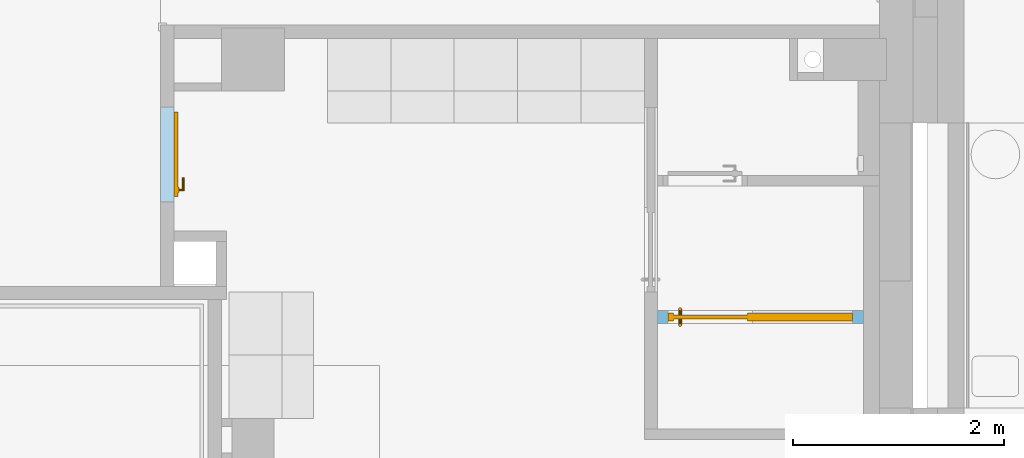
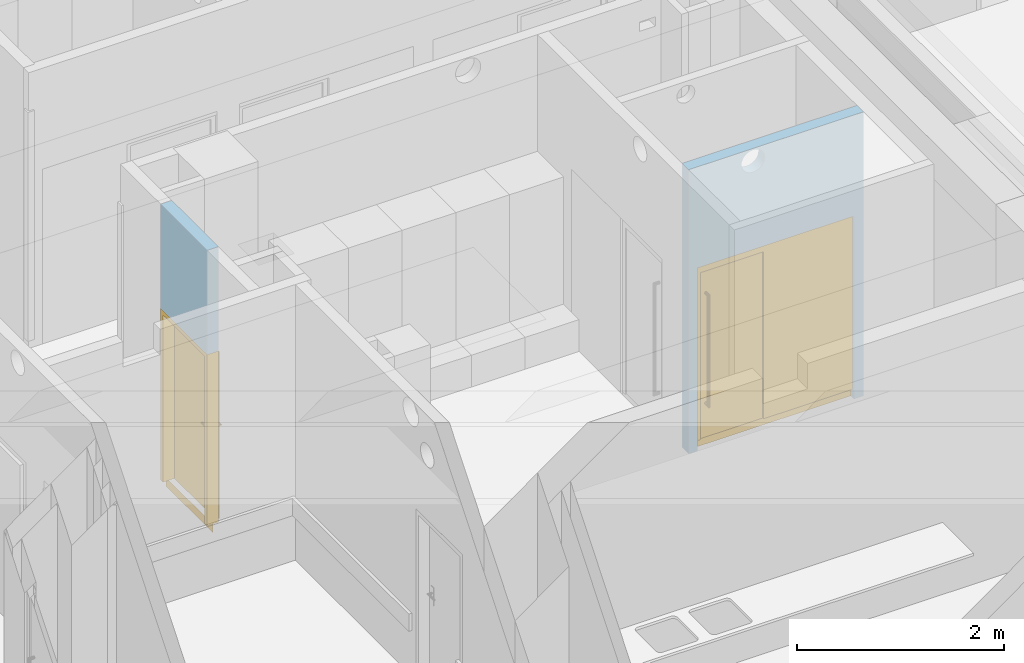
# One storey, part 100 of 140: 2 doors, 3 openings, plus 2 elements that do not belong to this part.
"""IFC4 building model written with IfcOpenShell, lengths in metres."""

from ifc_helpers import new_model, entity, si_unit, converted_unit, derived_unit, frame, frame_2d, origin, origin_with_axes, place, context, subcontext, project, spatial, polyline, rectangle, outline, extrude, closed_shell, open_shell, surface_model, source, transform, mapped, material, layer, layer_set, layer_usage, type_object, element, fill, save


model = new_model("IFC4")

# Units and contexts
model_context = context("Model", 3, precision=1e-05, world=origin())
body_context = subcontext(model_context, "Body", "Model", "MODEL_VIEW")
ifc_project = project(units=[si_unit("LENGTHUNIT", "METRE"), si_unit("AREAUNIT", "SQUARE_METRE"), si_unit("VOLUMEUNIT", "CUBIC_METRE"), si_unit("MASSUNIT", "GRAM", prefix="KILO"), converted_unit("PLANEANGLEUNIT", "DEGREE", entity("IfcPlaneAngleMeasure", 0.0174532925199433), si_unit("PLANEANGLEUNIT", "RADIAN"), dimensions=[0, 0, 0, 0, 0, 0, 0]), derived_unit("THERMALTRANSMITTANCEUNIT", [(si_unit("POWERUNIT", "WATT"), 1), (si_unit("THERMODYNAMICTEMPERATUREUNIT", "KELVIN"), -1), (si_unit("LENGTHUNIT", "METRE"), -2)]), derived_unit("VOLUMETRICFLOWRATEUNIT", [(si_unit("LENGTHUNIT", "METRE"), 3), (converted_unit("TIMEUNIT", "hour", entity("IfcTimeMeasure", 3600.0), si_unit("TIMEUNIT", "SECOND"), dimensions=[0, 0, 1, 0, 0, 0, 0]), -1), (si_unit("LENGTHUNIT", "METRE"), -1)])], contexts=[model_context])

# Site, building, storey
site_placement = place(None, origin())
site = spatial("IfcSite", under=ifc_project, at=site_placement, Name="3. ASŘ", CompositionType="ELEMENT")
building_placement = place(site_placement, origin())
building = spatial("IfcBuilding", under=site, at=building_placement, Name="Pavilon C", CompositionType="ELEMENT")
storey_placement = place(building_placement, origin())
storey = spatial("IfcBuildingStorey", under=building, at=storey_placement, Name="Půdorys 1.NP", CompositionType="ELEMENT", Elevation=0.0)

# Wall, openings, door
ifc_material_1 = material(Name="SDK - 1 KCE + DVOJITÉ OPLÁŠTĚNÍ")
ifc_layer_1 = layer(ifc_material_1, 0.125)
ifc_layer_set_1 = layer_set([ifc_layer_1])
ifc_layer_usage_1 = layer_usage(ifc_layer_set_1, "AXIS2", "POSITIVE", 0.0)
wall_1_placement = place(storey_placement, frame((49.73, 22.825, -0.1), z_axis=(0.0, 0.0, 1.0), x_axis=(-1.0, 0.0, 0.0)))
wall_1 = element("IfcWall", 1, at=wall_1_placement, inside=storey, material=ifc_layer_usage_1, Name="SDK - 1 KCE + DVOJITÉ OPLÁŠTĚNÍ", context=body_context, shape_type="SweptSolid", body=[
    extrude(rectangle(XDim=1.95, YDim=0.125, at=frame_2d((0.975, 0.0625), x_axis=(1.0, 0.0))), origin_with_axes(), (0.0, 0.0, 1.0), 3.35),
])
opening_1_placement = place(wall_1_placement, frame((1.85, 0.125, 0.0), z_axis=(0.0, -1.0, 0.0), x_axis=(0.0, 0.0, 1.0)))
opening_1 = element("IfcOpeningElement", 2, at=opening_1_placement, cuts=wall_1, Name="Dveřní otvor", ObjectType="Opening", context=body_context, shape_type="SweptSolid", body=[
    extrude(outline(polyline([(0.0, 1.745), (2.16, 1.745), (2.16, 0.0), (0.0, 0.0), (0.0, 1.745)])), origin_with_axes(), (0.0, 0.0, 1.0), 0.125),
])
opening_2_placement = place(wall_1_placement, frame((1.36, 0.125, 3.07), z_axis=(0.0, -1.0, 0.0), x_axis=(0.0, 0.0, 1.0)))
element("IfcOpeningElement", 3, at=opening_2_placement, cuts=wall_1, Name="VZT", ObjectType="Opening", context=body_context, shape_type="SweptSolid", body=[
    extrude(outline(polyline([(0.129999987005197, 0.0), (0.116411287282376, 0.000712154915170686), (0.102971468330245, 0.00284081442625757), (0.0898277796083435, 0.00636265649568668), (0.0771242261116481, 0.0112390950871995), (0.064999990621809, 0.0174167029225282), (0.0535879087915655, 0.0248277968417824), (0.0430130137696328, 0.033391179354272), (0.0333911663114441, 0.0430130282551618), (0.0248277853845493, 0.0535879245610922), (0.0174166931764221, 0.0650000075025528), (0.0112390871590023, 0.0771242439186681), (0.00636265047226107, 0.0898277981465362), (0.00284081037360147, 0.102971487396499), (0.00071215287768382, 0.116411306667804), (0.0, 0.130000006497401), (0.00071215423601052, 0.143588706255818), (0.00284081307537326, 0.157028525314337), (0.00636265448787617, 0.17017221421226), (0.0112390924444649, 0.182875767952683), (0.0174166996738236, 0.19500000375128), (0.0248277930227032, 0.206412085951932), (0.0333911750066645, 0.21698698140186), (0.0430130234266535, 0.226608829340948), (0.0535879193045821, 0.235172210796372), (0.0650000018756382, 0.242583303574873), (0.0771242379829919, 0.248760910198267), (0.0898277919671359, 0.253637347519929), (0.102971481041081, 0.257159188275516), (0.116411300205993, 0.259287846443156), (0.13, 0.26), (0.143588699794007, 0.259287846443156), (0.157028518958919, 0.257159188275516), (0.170172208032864, 0.253637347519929), (0.182875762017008, 0.248760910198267), (0.194999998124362, 0.242583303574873), (0.206412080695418, 0.235172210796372), (0.216986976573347, 0.226608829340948), (0.226608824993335, 0.21698698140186), (0.235172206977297, 0.206412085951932), (0.242583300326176, 0.19500000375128), (0.248760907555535, 0.182875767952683), (0.253637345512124, 0.17017221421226), (0.257159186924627, 0.157028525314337), (0.259287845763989, 0.143588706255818), (0.26, 0.130000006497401), (0.259287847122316, 0.116411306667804), (0.257159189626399, 0.102971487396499), (0.253637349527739, 0.0898277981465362), (0.248760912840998, 0.0771242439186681), (0.242583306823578, 0.0650000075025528), (0.235172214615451, 0.0535879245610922), (0.226608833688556, 0.0430130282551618), (0.216986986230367, 0.033391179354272), (0.206412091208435, 0.0248277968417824), (0.195000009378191, 0.0174167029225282), (0.182875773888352, 0.0112390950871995), (0.170172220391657, 0.00636265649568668), (0.157028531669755, 0.00284081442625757), (0.143588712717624, 0.000712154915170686), (0.129999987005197, 0.0)])), origin_with_axes(), (0.0, 0.0, 1.0), 0.125),
])
door_type_1 = type_object("IfcDoorType", Name="I.DP01", OperationType="NOTDEFINED", ParameterTakesPrecedence=False, PredefinedType="DOOR")
shared_shape_1 = source(origin_with_axes(), body_context, "Body", "SurfaceModel", [
    surface_model("IfcShellBasedSurfaceModel", [(0.0, 0.0924999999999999, 0.0), (1.745, 0.0924999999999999, 0.0), (1.745, 0.0924999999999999, 0.1), (0.0, 0.0924999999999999, 0.1)], [open_shell([[[0, 1, 2, 3]]], orient=[[False]])]),
    surface_model("IfcShellBasedSurfaceModel", [(0.0, 0.13, 2.16), (0.0, 0.13, 0.101), (0.995, 0.13, 0.101), (0.995, 0.13, 2.16), (0.0, 0.0549999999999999, 0.101), (0.0, 0.0550000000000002, 2.16), (0.995, 0.0550000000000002, 2.16), (0.995, 0.0549999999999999, 0.101)], [closed_shell([[[0, 1, 2, 3]], [[4, 5, 6, 7]], [[1, 0, 5, 4]], [[2, 1, 4, 7]], [[3, 2, 7, 6]], [[0, 3, 6, 5]]], orient=[[False], [False], [False], [False], [False], [False]])]),
    surface_model("IfcShellBasedSurfaceModel", [(1.695, 0.13, 2.16), (1.695, 0.13, 0.101), (1.745, 0.13, 0.101), (1.745, 0.13, 2.16), (1.695, 0.0549999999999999, 0.101), (1.695, 0.0550000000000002, 2.16), (1.745, 0.0550000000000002, 2.16), (1.745, 0.0549999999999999, 0.101)], [closed_shell([[[0, 1, 2, 3]], [[4, 5, 6, 7]], [[1, 0, 5, 4]], [[2, 1, 4, 7]], [[3, 2, 7, 6]], [[0, 3, 6, 5]]], orient=[[False], [False], [False], [False], [False], [False]])]),
    surface_model("IfcShellBasedSurfaceModel", [(0.995, 0.13, 2.16), (0.995, 0.13, 2.07), (1.695, 0.13, 2.07), (1.695, 0.13, 2.16), (0.995, 0.0550000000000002, 2.07), (0.995, 0.0550000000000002, 2.16), (1.695, 0.0550000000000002, 2.16), (1.695, 0.0550000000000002, 2.07)], [closed_shell([[[0, 1, 2, 3]], [[4, 5, 6, 7]], [[1, 0, 5, 4]], [[2, 1, 4, 7]], [[3, 2, 7, 6]], [[0, 3, 6, 5]]], orient=[[False], [False], [False], [False], [False], [False]])]),
    surface_model("IfcShellBasedSurfaceModel", [(0.995, 0.11, 2.07), (0.995, 0.11, 0.101), (1.695, 0.11, 0.101), (1.695, 0.11, 2.07), (0.995, 0.0699999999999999, 0.101), (0.995, 0.0700000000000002, 2.07), (1.695, 0.0700000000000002, 2.07), (1.695, 0.0699999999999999, 0.101)], [closed_shell([[[0, 1, 2, 3]], [[4, 5, 6, 7]], [[1, 0, 5, 4]], [[2, 1, 4, 7]], [[3, 2, 7, 6]], [[0, 3, 6, 5]]], orient=[[False], [False], [False], [False], [False], [False]])]),
    surface_model("IfcShellBasedSurfaceModel", [(1.645, 0.0700000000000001, 1.801), (1.64299038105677, 0.0700000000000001, 1.8085), (1.6375, 0.0700000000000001, 1.81399038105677), (1.63, 0.0700000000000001, 1.816), (1.6225, 0.0700000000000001, 1.81399038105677), (1.61700961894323, 0.0700000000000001, 1.8085), (1.615, 0.0700000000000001, 1.801), (1.61700961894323, 0.0700000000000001, 1.7935), (1.6225, 0.0700000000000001, 1.78800961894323), (1.63, 0.0700000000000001, 1.786), (1.6375, 0.0700000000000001, 1.78800961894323), (1.64299038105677, 0.0700000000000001, 1.7935), (1.645, 0.0150000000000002, 1.801), (1.64299038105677, 0.00750000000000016, 1.8085), (1.6375, 0.00200961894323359, 1.81399038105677), (1.63, 1.70530256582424e-16, 1.816), (1.6225, 0.00200961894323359, 1.81399038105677), (1.61700961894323, 0.00750000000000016, 1.8085), (1.615, 0.0150000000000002, 1.801), (1.61700961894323, 0.0225000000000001, 1.7935), (1.6225, 0.0279903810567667, 1.78800961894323), (1.63, 0.0300000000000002, 1.786), (1.6375, 0.0279903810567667, 1.78800961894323), (1.64299038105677, 0.0225000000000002, 1.7935), (1.645, 0.015, 0.501), (1.64299038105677, 0.00749999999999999, 0.4935), (1.6375, 0.00200961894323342, 0.488009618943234), (1.63, 0.0, 0.486), (1.6225, 0.00200961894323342, 0.488009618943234), (1.61700961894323, 0.00749999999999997, 0.4935), (1.615, 0.015, 0.501), (1.61700961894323, 0.0225, 0.5085), (1.6225, 0.0279903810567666, 0.513990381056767), (1.63, 0.03, 0.516), (1.6375, 0.0279903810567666, 0.513990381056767), (1.64299038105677, 0.0225, 0.5085), (1.645, 0.07, 0.501), (1.64299038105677, 0.07, 0.4935), (1.6375, 0.07, 0.488009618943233), (1.63, 0.07, 0.486), (1.6225, 0.07, 0.488009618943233), (1.61700961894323, 0.07, 0.4935), (1.615, 0.07, 0.501), (1.61700961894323, 0.07, 0.5085), (1.6225, 0.07, 0.513990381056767), (1.63, 0.07, 0.516), (1.6375, 0.07, 0.513990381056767), (1.64299038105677, 0.07, 0.5085)], [open_shell([[[0, 1, 2, 3, 4, 5, 6, 7, 8, 9, 10, 11]], [[0, 12, 13, 1]], [[1, 13, 14, 2]], [[2, 14, 15, 3]], [[3, 15, 16, 4]], [[4, 16, 17, 5]], [[5, 17, 18, 6]], [[6, 18, 19, 7]], [[7, 19, 20, 8]], [[8, 20, 21, 9]], [[9, 21, 22, 10]], [[10, 22, 23, 11]], [[11, 23, 12, 0]], [[12, 24, 25, 13]], [[13, 25, 26, 14]], [[14, 26, 27, 15]], [[15, 27, 28, 16]], [[16, 28, 29, 17]], [[17, 29, 30, 18]], [[18, 30, 31, 19]], [[19, 31, 32, 20]], [[20, 32, 33, 21]], [[21, 33, 34, 22]], [[22, 34, 35, 23]], [[23, 35, 24, 12]], [[24, 36, 37, 25]], [[25, 37, 38, 26]], [[26, 38, 39, 27]], [[27, 39, 40, 28]], [[28, 40, 41, 29]], [[29, 41, 42, 30]], [[30, 42, 43, 31]], [[31, 43, 44, 32]], [[32, 44, 45, 33]], [[33, 45, 46, 34]], [[34, 46, 47, 35]], [[35, 47, 36, 24]]], orient=[[False], [False], [False], [False], [False], [False], [False], [False], [False], [False], [False], [False], [False], [False], [False], [False], [False], [False], [False], [False], [False], [False], [False], [False], [False], [False], [False], [False], [False], [False], [False], [False], [False], [False], [False], [False], [False]])]),
    surface_model("IfcShellBasedSurfaceModel", [(1.645, 0.11, 1.801), (1.64299038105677, 0.11, 1.7935), (1.6375, 0.11, 1.78800961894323), (1.63, 0.11, 1.786), (1.6225, 0.11, 1.78800961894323), (1.61700961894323, 0.11, 1.7935), (1.615, 0.11, 1.801), (1.61700961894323, 0.11, 1.8085), (1.6225, 0.11, 1.81399038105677), (1.63, 0.11, 1.816), (1.6375, 0.11, 1.81399038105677), (1.64299038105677, 0.11, 1.8085), (1.64299038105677, 0.1725, 1.8085), (1.645, 0.165, 1.801), (1.6375, 0.177990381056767, 1.81399038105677), (1.63, 0.18, 1.816), (1.6225, 0.177990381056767, 1.81399038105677), (1.61700961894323, 0.1725, 1.8085), (1.615, 0.165, 1.801), (1.61700961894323, 0.1575, 1.7935), (1.6225, 0.152009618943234, 1.78800961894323), (1.63, 0.15, 1.786), (1.6375, 0.152009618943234, 1.78800961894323), (1.64299038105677, 0.1575, 1.7935), (1.64299038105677, 0.1725, 0.4935), (1.645, 0.165, 0.501), (1.6375, 0.177990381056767, 0.488009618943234), (1.63, 0.18, 0.486), (1.6225, 0.177990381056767, 0.488009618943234), (1.61700961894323, 0.1725, 0.4935), (1.615, 0.165, 0.501), (1.61700961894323, 0.1575, 0.5085), (1.6225, 0.152009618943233, 0.513990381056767), (1.63, 0.15, 0.516), (1.6375, 0.152009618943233, 0.513990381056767), (1.64299038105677, 0.1575, 0.5085), (1.64299038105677, 0.11, 0.4935), (1.645, 0.11, 0.501), (1.6375, 0.11, 0.488009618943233), (1.63, 0.11, 0.486), (1.6225, 0.11, 0.488009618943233), (1.61700961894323, 0.11, 0.4935), (1.615, 0.11, 0.501), (1.61700961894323, 0.11, 0.5085), (1.6225, 0.11, 0.513990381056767), (1.63, 0.11, 0.516), (1.6375, 0.11, 0.513990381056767), (1.64299038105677, 0.11, 0.5085)], [open_shell([[[0, 1, 2, 3, 4, 5, 6, 7, 8, 9, 10, 11]], [[0, 11, 12, 13]], [[11, 10, 14, 12]], [[10, 9, 15, 14]], [[9, 8, 16, 15]], [[8, 7, 17, 16]], [[7, 6, 18, 17]], [[6, 5, 19, 18]], [[5, 4, 20, 19]], [[4, 3, 21, 20]], [[3, 2, 22, 21]], [[2, 1, 23, 22]], [[1, 0, 13, 23]], [[13, 12, 24, 25]], [[12, 14, 26, 24]], [[14, 15, 27, 26]], [[15, 16, 28, 27]], [[16, 17, 29, 28]], [[17, 18, 30, 29]], [[18, 19, 31, 30]], [[19, 20, 32, 31]], [[20, 21, 33, 32]], [[21, 22, 34, 33]], [[22, 23, 35, 34]], [[23, 13, 25, 35]], [[25, 24, 36, 37]], [[24, 26, 38, 36]], [[26, 27, 39, 38]], [[27, 28, 40, 39]], [[28, 29, 41, 40]], [[29, 30, 42, 41]], [[30, 31, 43, 42]], [[31, 32, 44, 43]], [[32, 33, 45, 44]], [[33, 34, 46, 45]], [[34, 35, 47, 46]], [[35, 25, 37, 47]]], orient=[[False], [False], [False], [False], [False], [False], [False], [False], [False], [False], [False], [False], [False], [False], [False], [False], [False], [False], [False], [False], [False], [False], [False], [False], [False], [False], [False], [False], [False], [False], [False], [False], [False], [False], [False], [False], [False]])]),
])
door_1_placement = place(opening_1_placement, frame((0.0, 1.745, -0.03), z_axis=(1.0, 0.0, 0.0), x_axis=(0.0, -1.0, 0.0)))
door_1 = element("IfcDoor", 4, at=door_1_placement, inside=storey, type_object=door_type_1, Name="I.DP01", OverallHeight=2.16, OverallWidth=1.745, context=body_context, shape_type="MappedRepresentation", body=[
    mapped(shared_shape_1, transform((0.0, 0.0, 0.0), x_axis=(1.0, 0.0, 0.0), y_axis=(0.0, -1.0, 0.0), z_axis=(0.0, 0.0, 1.0), scale=1.0)),
])
fill(opening_1, door_1)

# Wall, opening, door
ifc_material_2 = material(Name="SDK - 1 KCE + DVOJITÉ OPLÁŠTĚNÍ")
ifc_layer_2 = layer(ifc_material_2, 0.125)
ifc_layer_set_2 = layer_set([ifc_layer_2])
ifc_layer_usage_2 = layer_usage(ifc_layer_set_2, "AXIS2", "POSITIVE", 0.0)
wall_2_placement = place(storey_placement, frame((43.2, 23.85, 0.0), z_axis=(0.0, 0.0, 1.0), x_axis=(0.0, 1.0, 0.0)))
wall_2 = element("IfcWall", 5, at=wall_2_placement, inside=storey, material=ifc_layer_usage_2, Name="SDK - 1 KCE + DVOJITÉ OPLÁŠTĚNÍ", context=body_context, shape_type="SweptSolid", body=[
    extrude(rectangle(XDim=0.9, YDim=0.125, at=frame_2d((0.45, 0.0625), x_axis=(1.0, 0.0))), origin_with_axes(), (0.0, 0.0, 1.0), 3.25),
])
opening_3_placement = place(wall_2_placement, frame((0.9, 0.125, -0.1), z_axis=(0.0, -1.0, 0.0), x_axis=(0.0, 0.0, 1.0)))
opening_3 = element("IfcOpeningElement", 6, at=opening_3_placement, cuts=wall_2, Name="Dveřní otvor", ObjectType="Opening", context=body_context, shape_type="SweptSolid", body=[
    extrude(outline(polyline([(0.0, 0.9), (2.12, 0.9), (2.12, 0.0), (0.0, 0.0), (0.0, 0.9)])), origin_with_axes(), (0.0, 0.0, 1.0), 0.125),
])
door_type_2 = type_object("IfcDoorType", Name="I.D109", OperationType="NOTDEFINED", ParameterTakesPrecedence=False, PredefinedType="DOOR")
shared_shape_2 = source(origin_with_axes(), body_context, "Body", "SurfaceModel", [
    surface_model("IfcShellBasedSurfaceModel", [(0.0, 0.0625, 0.0), (0.9, 0.0625, 0.0), (0.9, 0.0625, 0.1), (0.0, 0.0625, 0.1)], [open_shell([[[0, 1, 2, 3]]], orient=[[False]])]),
    surface_model("IfcShellBasedSurfaceModel", [(0.0, 0.125, 2.12), (0.0, 0.125, 0.101), (0.05, 0.125, 0.101), (0.05, 0.125, 2.12), (0.0, 0.0, 0.101), (0.0, 2.41584530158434e-16, 2.12), (0.05, 2.41584530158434e-16, 2.12), (0.05, 0.0, 0.101)], [closed_shell([[[0, 1, 2, 3]], [[4, 5, 6, 7]], [[1, 0, 5, 4]], [[2, 1, 4, 7]], [[3, 2, 7, 6]], [[0, 3, 6, 5]]], orient=[[False], [False], [False], [False], [False], [False]])]),
    surface_model("IfcShellBasedSurfaceModel", [(0.85, 0.125, 2.12), (0.85, 0.125, 0.101), (0.9, 0.125, 0.101), (0.9, 0.125, 2.12), (0.85, 0.0, 0.101), (0.85, 2.41584530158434e-16, 2.12), (0.9, 2.41584530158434e-16, 2.12), (0.9, 0.0, 0.101)], [closed_shell([[[0, 1, 2, 3]], [[4, 5, 6, 7]], [[1, 0, 5, 4]], [[2, 1, 4, 7]], [[3, 2, 7, 6]], [[0, 3, 6, 5]]], orient=[[False], [False], [False], [False], [False], [False]])]),
    surface_model("IfcShellBasedSurfaceModel", [(0.05, 0.125, 2.12), (0.05, 0.125, 2.07), (0.85, 0.125, 2.07), (0.85, 0.125, 2.12), (0.05, 2.41584530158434e-16, 2.07), (0.05, 2.41584530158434e-16, 2.12), (0.85, 2.41584530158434e-16, 2.12), (0.85, 2.41584530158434e-16, 2.07)], [closed_shell([[[0, 1, 2, 3]], [[4, 5, 6, 7]], [[1, 0, 5, 4]], [[2, 1, 4, 7]], [[3, 2, 7, 6]], [[0, 3, 6, 5]]], orient=[[False], [False], [False], [False], [False], [False]])]),
    surface_model("IfcShellBasedSurfaceModel", [(0.05, 0.165, 2.07), (0.05, 0.165, 0.101), (0.85, 0.165, 0.101), (0.85, 0.165, 2.07), (0.05, 0.125, 0.101), (0.05, 0.125, 2.07), (0.85, 0.125, 2.07), (0.85, 0.125, 0.101)], [closed_shell([[[0, 1, 2, 3]], [[4, 5, 6, 7]], [[1, 0, 5, 4]], [[2, 1, 4, 7]], [[3, 2, 7, 6]], [[0, 3, 6, 5]]], orient=[[False], [False], [False], [False], [False], [False]])]),
    surface_model("IfcShellBasedSurfaceModel", [(0.76, 0.125, 1.226), (0.76, 0.125, 1.011), (0.81, 0.125, 1.011), (0.81, 0.125, 1.226), (0.76, 0.115, 1.011), (0.76, 0.115, 1.226), (0.81, 0.115, 1.226), (0.81, 0.115, 1.011)], [closed_shell([[[0, 1, 2, 3]], [[4, 5, 6, 7]], [[1, 0, 5, 4]], [[2, 1, 4, 7]], [[3, 2, 7, 6]], [[0, 3, 6, 5]]], orient=[[False], [False], [False], [False], [False], [False]])]),
    surface_model("IfcShellBasedSurfaceModel", [(0.785, 0.115, 1.161), (0.78, 0.115, 1.15966025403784), (0.776339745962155, 0.115, 1.156), (0.775, 0.115, 1.151), (0.776339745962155, 0.115, 1.146), (0.78, 0.115, 1.14233974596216), (0.785, 0.115, 1.141), (0.79, 0.115, 1.14233974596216), (0.793660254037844, 0.115, 1.146), (0.795, 0.115, 1.151), (0.793660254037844, 0.115, 1.156), (0.79, 0.115, 1.15966025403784), (0.79, 0.0700000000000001, 1.15966025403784), (0.785, 0.0750000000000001, 1.161), (0.793660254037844, 0.0663397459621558, 1.156), (0.795, 0.0650000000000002, 1.151), (0.793660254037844, 0.0663397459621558, 1.146), (0.79, 0.0700000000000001, 1.14233974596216), (0.785, 0.0750000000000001, 1.141), (0.78, 0.0800000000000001, 1.14233974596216), (0.776339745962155, 0.0836602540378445, 1.146), (0.775, 0.0850000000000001, 1.151), (0.776339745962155, 0.0836602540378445, 1.156), (0.78, 0.0800000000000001, 1.15966025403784), (0.67, 0.0700000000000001, 1.15966025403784), (0.67, 0.0750000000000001, 1.161), (0.67, 0.0663397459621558, 1.156), (0.67, 0.0650000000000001, 1.151), (0.67, 0.0663397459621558, 1.146), (0.67, 0.0700000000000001, 1.14233974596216), (0.67, 0.0750000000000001, 1.141), (0.67, 0.0800000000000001, 1.14233974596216), (0.67, 0.0836602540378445, 1.146), (0.67, 0.0850000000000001, 1.151), (0.67, 0.0836602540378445, 1.156), (0.67, 0.0800000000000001, 1.15966025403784)], [open_shell([[[0, 1, 2, 3, 4, 5, 6, 7, 8, 9, 10, 11]], [[0, 11, 12, 13]], [[11, 10, 14, 12]], [[10, 9, 15, 14]], [[9, 8, 16, 15]], [[8, 7, 17, 16]], [[7, 6, 18, 17]], [[6, 5, 19, 18]], [[5, 4, 20, 19]], [[4, 3, 21, 20]], [[3, 2, 22, 21]], [[2, 1, 23, 22]], [[1, 0, 13, 23]], [[13, 12, 24, 25]], [[12, 14, 26, 24]], [[14, 15, 27, 26]], [[15, 16, 28, 27]], [[16, 17, 29, 28]], [[17, 18, 30, 29]], [[18, 19, 31, 30]], [[19, 20, 32, 31]], [[20, 21, 33, 32]], [[21, 22, 34, 33]], [[22, 23, 35, 34]], [[23, 13, 25, 35]]], orient=[[False], [False], [False], [False], [False], [False], [False], [False], [False], [False], [False], [False], [False], [False], [False], [False], [False], [False], [False], [False], [False], [False], [False], [False], [False]])]),
    surface_model("IfcShellBasedSurfaceModel", [(0.76, 0.165, 1.226), (0.81, 0.165, 1.226), (0.81, 0.165, 1.011), (0.76, 0.165, 1.011), (0.76, 0.175, 1.011), (0.81, 0.175, 1.011), (0.81, 0.175, 1.226), (0.76, 0.175, 1.226)], [closed_shell([[[0, 1, 2, 3]], [[4, 5, 6, 7]], [[3, 4, 7, 0]], [[2, 5, 4, 3]], [[1, 6, 5, 2]], [[0, 7, 6, 1]]], orient=[[False], [False], [False], [False], [False], [False]])]),
    surface_model("IfcShellBasedSurfaceModel", [(0.785, 0.175, 1.161), (0.79, 0.175, 1.15966025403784), (0.793660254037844, 0.175, 1.156), (0.795, 0.175, 1.151), (0.793660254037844, 0.175, 1.146), (0.79, 0.175, 1.14233974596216), (0.785, 0.175, 1.141), (0.78, 0.175, 1.14233974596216), (0.776339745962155, 0.175, 1.146), (0.775, 0.175, 1.151), (0.776339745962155, 0.175, 1.156), (0.78, 0.175, 1.15966025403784), (0.785, 0.215, 1.161), (0.79, 0.22, 1.15966025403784), (0.793660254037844, 0.223660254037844, 1.156), (0.795, 0.225, 1.151), (0.793660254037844, 0.223660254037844, 1.146), (0.79, 0.22, 1.14233974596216), (0.785, 0.215, 1.141), (0.78, 0.21, 1.14233974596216), (0.776339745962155, 0.206339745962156, 1.146), (0.775, 0.205, 1.151), (0.776339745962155, 0.206339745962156, 1.156), (0.78, 0.21, 1.15966025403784), (0.67, 0.215, 1.161), (0.67, 0.22, 1.15966025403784), (0.67, 0.223660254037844, 1.156), (0.67, 0.225, 1.151), (0.67, 0.223660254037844, 1.146), (0.67, 0.22, 1.14233974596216), (0.67, 0.215, 1.141), (0.67, 0.21, 1.14233974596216), (0.67, 0.206339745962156, 1.146), (0.67, 0.205, 1.151), (0.67, 0.206339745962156, 1.156), (0.67, 0.21, 1.15966025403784)], [open_shell([[[0, 1, 2, 3, 4, 5, 6, 7, 8, 9, 10, 11]], [[0, 12, 13, 1]], [[1, 13, 14, 2]], [[2, 14, 15, 3]], [[3, 15, 16, 4]], [[4, 16, 17, 5]], [[5, 17, 18, 6]], [[6, 18, 19, 7]], [[7, 19, 20, 8]], [[8, 20, 21, 9]], [[9, 21, 22, 10]], [[10, 22, 23, 11]], [[11, 23, 12, 0]], [[12, 24, 25, 13]], [[13, 25, 26, 14]], [[14, 26, 27, 15]], [[15, 27, 28, 16]], [[16, 28, 29, 17]], [[17, 29, 30, 18]], [[18, 30, 31, 19]], [[19, 31, 32, 20]], [[20, 32, 33, 21]], [[21, 33, 34, 22]], [[22, 34, 35, 23]], [[23, 35, 24, 12]]], orient=[[False], [False], [False], [False], [False], [False], [False], [False], [False], [False], [False], [False], [False], [False], [False], [False], [False], [False], [False], [False], [False], [False], [False], [False], [False]])]),
])
door_2_placement = place(opening_3_placement, frame((0.0, 7.27595761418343e-15, -1.45519152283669e-14), z_axis=(1.0, 0.0, 0.0), x_axis=(0.0, 1.0, 1.22464679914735e-16)))
door_2 = element("IfcDoor", 7, at=door_2_placement, inside=storey, type_object=door_type_2, Name="I.D109", OverallHeight=2.12, OverallWidth=0.9, context=body_context, shape_type="MappedRepresentation", body=[
    mapped(shared_shape_2, transform((0.0, 0.0, 0.0), x_axis=(1.0, 0.0, 0.0), y_axis=(0.0, 1.0, 0.0), z_axis=(0.0, 0.0, 1.0), scale=1.0)),
])
fill(opening_3, door_2)

save(model, "model.ifc")
